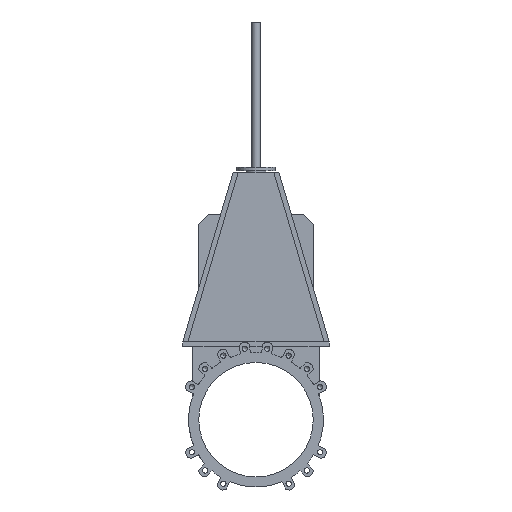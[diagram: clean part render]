
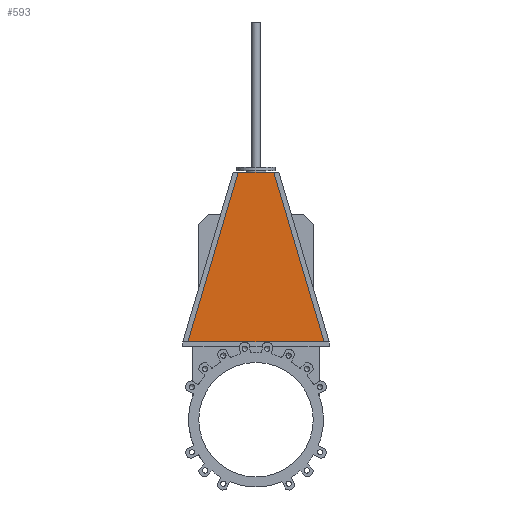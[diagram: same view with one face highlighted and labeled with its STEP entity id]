
A CAD part, front view. The second image highlights one B-rep face of the part: STEP entity #593.
In plain terms, the highlighted planar face has unit normal (0, -1, 0).
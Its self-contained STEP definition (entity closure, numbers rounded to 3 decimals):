
#593=ADVANCED_FACE('',(#3276),#3278,.F.);
#3276=FACE_BOUND('',#3277,.T.);
#3277=EDGE_LOOP('',(#5545,#5546,#5547,#5548,#5549,#5550));
#3278=PLANE('',#3279);
#3279=AXIS2_PLACEMENT_3D('',#3280,#3281,#3282);
#3280=CARTESIAN_POINT('',(267.5,-36.,305.5));
#3281=DIRECTION('',(0.,1.,0.));
#3282=DIRECTION('',(-1.,0.,0.));
#5545=ORIENTED_EDGE('',*,*,#6938,.F.);
#5546=ORIENTED_EDGE('',*,*,#6937,.T.);
#5547=ORIENTED_EDGE('',*,*,#7023,.F.);
#5548=ORIENTED_EDGE('',*,*,#7025,.F.);
#5549=ORIENTED_EDGE('',*,*,#7026,.T.);
#5550=ORIENTED_EDGE('',*,*,#6944,.T.);
#6937=EDGE_CURVE('',#7764,#7834,#7836,.T.);
#6938=EDGE_CURVE('',#7764,#7768,#7837,.F.);
#6944=EDGE_CURVE('',#7848,#7768,#7849,.T.);
#7023=EDGE_CURVE('',#7983,#7834,#7984,.T.);
#7025=EDGE_CURVE('',#7986,#7983,#7987,.T.);
#7026=EDGE_CURVE('',#7986,#7848,#7988,.T.);
#7764=VERTEX_POINT('',#9310);
#7768=VERTEX_POINT('',#9320);
#7834=VERTEX_POINT('',#9472);
#7836=LINE('',#9476,#9477);
#7837=LINE('',#9479,#9480);
#7848=VERTEX_POINT('',#9507);
#7849=LINE('',#9508,#9509);
#7983=VERTEX_POINT('',#9803);
#7984=LINE('',#9804,#9805);
#7986=VERTEX_POINT('',#9810);
#7987=LINE('',#9811,#9812);
#7988=LINE('',#9814,#9815);
#9310=CARTESIAN_POINT('',(-17.436,-36.,973.));
#9320=CARTESIAN_POINT('',(17.436,-36.,973.));
#9472=CARTESIAN_POINT('',(-70.,-36.,973.));
#9476=CARTESIAN_POINT('',(-17.436,-36.,973.));
#9477=VECTOR('',#9478,1.);
#9478=DIRECTION('',(-1.,0.,0.));
#9479=CARTESIAN_POINT('',(17.436,-36.,973.));
#9480=VECTOR('',#9481,1.);
#9481=DIRECTION('',(-1.,0.,0.));
#9507=CARTESIAN_POINT('',(70.,-36.,973.));
#9508=CARTESIAN_POINT('',(70.,-36.,973.));
#9509=VECTOR('',#9510,1.);
#9510=DIRECTION('',(-1.,0.,0.));
#9803=CARTESIAN_POINT('',(-267.5,-36.,305.5));
#9804=CARTESIAN_POINT('',(-267.5,-36.,305.5));
#9805=VECTOR('',#9806,1.);
#9806=DIRECTION('',(0.284,0.,0.959));
#9810=CARTESIAN_POINT('',(267.5,-36.,305.5));
#9811=CARTESIAN_POINT('',(267.5,-36.,305.5));
#9812=VECTOR('',#9813,1.);
#9813=DIRECTION('',(-1.,0.,0.));
#9814=CARTESIAN_POINT('',(267.5,-36.,305.5));
#9815=VECTOR('',#9816,1.);
#9816=DIRECTION('',(-0.284,0.,0.959));
